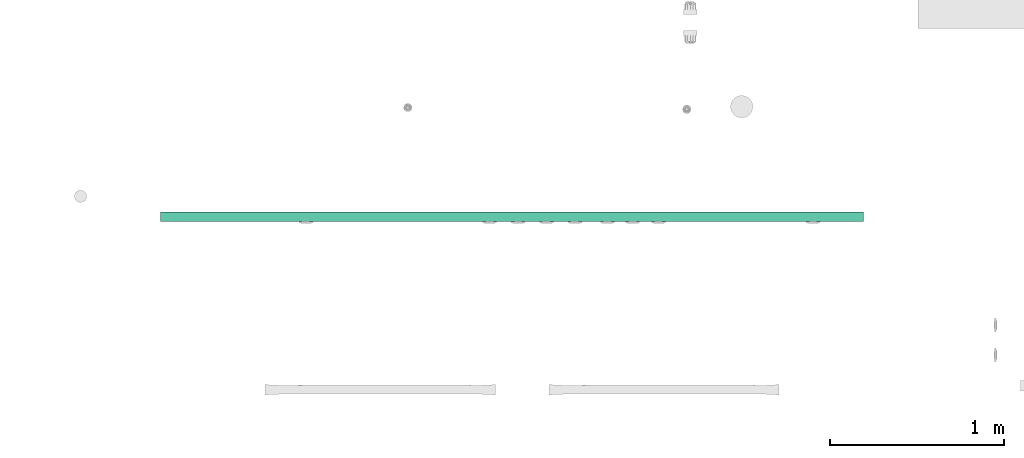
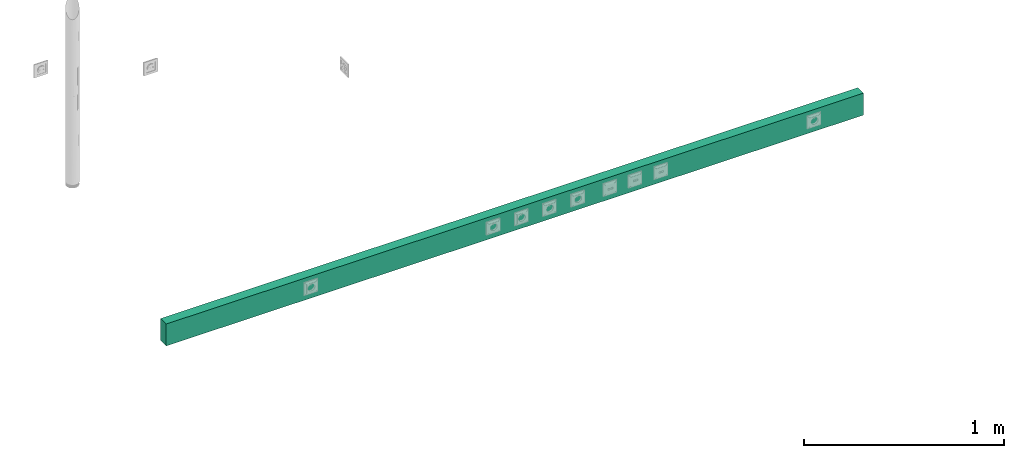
# One storey, part 10 of 166: 1 flow segment.
"""IFC2X3 building model written with IfcOpenShell, lengths in metres."""

from ifc_helpers import new_model, entity, si_unit, converted_unit, derived_unit, direction, frame, frame_2d, origin, place, context, subcontext, project, spatial, rectangle, extrude, type_object, element, save


model = new_model("IFC2X3")

# Units and contexts
model_context = context("Model", 3, precision=1e-05, world=origin(), true_north=direction((6.12303176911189e-17, 1.0)))
body_context = subcontext(model_context, "Body", "Model", "MODEL_VIEW")
ifc_project = project(units=[si_unit("LENGTHUNIT", "METRE"), si_unit("AREAUNIT", "SQUARE_METRE"), si_unit("VOLUMEUNIT", "CUBIC_METRE"), converted_unit("PLANEANGLEUNIT", "DEGREE", entity("IfcRatioMeasure", 0.0174532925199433), si_unit("PLANEANGLEUNIT", "RADIAN"), dimensions=[0, 0, 0, 0, 0, 0, 0]), si_unit("MASSUNIT", "GRAM", prefix="KILO"), derived_unit("MASSDENSITYUNIT", [(si_unit("MASSUNIT", "GRAM", prefix="KILO"), 1), (si_unit("LENGTHUNIT", "METRE"), -3)]), si_unit("TIMEUNIT", "SECOND"), si_unit("FREQUENCYUNIT", "HERTZ"), si_unit("THERMODYNAMICTEMPERATUREUNIT", "DEGREE_CELSIUS"), derived_unit("THERMALTRANSMITTANCEUNIT", [(si_unit("MASSUNIT", "GRAM", prefix="KILO"), 1), (si_unit("THERMODYNAMICTEMPERATUREUNIT", "KELVIN"), -1), (si_unit("TIMEUNIT", "SECOND"), -3)]), derived_unit("VOLUMETRICFLOWRATEUNIT", [(si_unit("LENGTHUNIT", "METRE"), 3), (si_unit("TIMEUNIT", "SECOND"), -1)]), si_unit("ELECTRICCURRENTUNIT", "AMPERE"), si_unit("ELECTRICVOLTAGEUNIT", "VOLT"), si_unit("POWERUNIT", "WATT"), si_unit("FORCEUNIT", "NEWTON"), si_unit("ILLUMINANCEUNIT", "LUX"), si_unit("LUMINOUSFLUXUNIT", "LUMEN"), si_unit("LUMINOUSINTENSITYUNIT", "CANDELA"), derived_unit("USERDEFINED", [(si_unit("MASSUNIT", "GRAM", prefix="KILO"), -1), (si_unit("LENGTHUNIT", "METRE"), -2), (si_unit("TIMEUNIT", "SECOND"), 3), (si_unit("LUMINOUSFLUXUNIT", "LUMEN"), 1)]), derived_unit("LINEARVELOCITYUNIT", [(si_unit("LENGTHUNIT", "METRE"), 1), (si_unit("TIMEUNIT", "SECOND"), -1)]), si_unit("PRESSUREUNIT", "PASCAL"), derived_unit("USERDEFINED", [(si_unit("LENGTHUNIT", "METRE"), -2), (si_unit("MASSUNIT", "GRAM", prefix="KILO"), 1), (si_unit("TIMEUNIT", "SECOND"), -2)])], contexts=[model_context])

# Site, building, storey
site_placement = place(None, origin())
site = spatial("IfcSite", under=ifc_project, at=site_placement, Name="Default", CompositionType="ELEMENT")
building_placement = place(site_placement, origin())
building = spatial("IfcBuilding", under=site, at=building_placement, CompositionType="ELEMENT")
storey_placement = place(building_placement, frame((0.0, 0.0, 4.27)))
storey = spatial("IfcBuildingStorey", under=building, at=storey_placement, Name="01", CompositionType="ELEMENT", Elevation=4.27)

# Flow segment
cable_carrier_segment_type = type_object("IfcCableCarrierSegmentType", Name="Cable Tray with Fittings:Goulottes de câbles indéfini_Goulottes de câbles", PredefinedType="NOTDEFINED")
flow_segment_placement = place(storey_placement, origin())
element("IfcFlowSegment", 1, at=flow_segment_placement, inside=storey, type_object=cable_carrier_segment_type, Name="Cable Tray with Fittings:Goulottes de câbles indéfini_Goulottes de câbles", ObjectType="Cable Tray with Fittings:Goulottes de câbles indéfini_Goulottes de câbles", context=body_context, shape_type="SweptSolid", body=[
    extrude(rectangle(XDim=4.0300000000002, YDim=0.0559999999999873, at=frame_2d((4.21884749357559e-15, 0.0), x_axis=(1.0, 0.0))), frame((47.4347436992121, -189.928744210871, 0.366), z_axis=(0.0, 0.0, 1.0), x_axis=(-1.0, 0.0, 0.0)), (0.0, 0.0, 1.0), 0.134),
])

save(model, "model.ifc")
